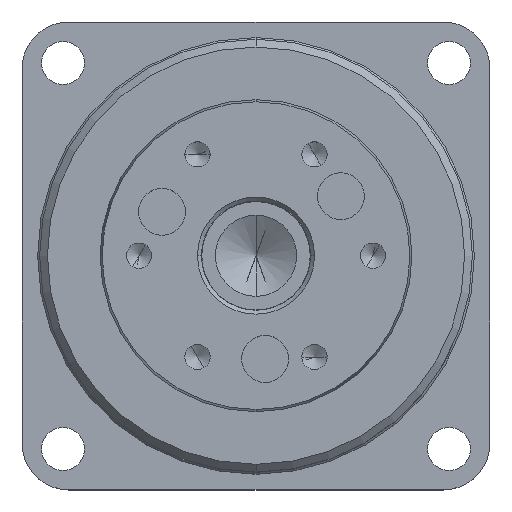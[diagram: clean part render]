
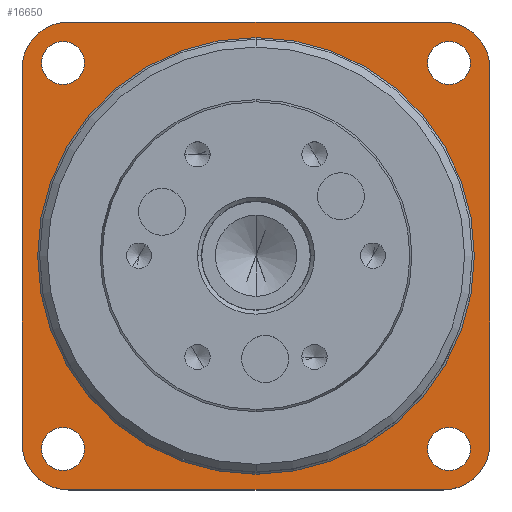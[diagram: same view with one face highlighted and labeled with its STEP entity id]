
A CAD part, top view. The second image highlights one B-rep face of the part: STEP entity #16650.
In plain terms, the highlighted planar face has unit normal (0, 0, 1).
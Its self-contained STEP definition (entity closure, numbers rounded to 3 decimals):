
#5863=CARTESIAN_POINT('',(24.,24.,0.));
#5864=DIRECTION('',(0.,0.,-1.));
#5865=DIRECTION('',(0.,1.,0.));
#5866=AXIS2_PLACEMENT_3D('',#5863,#5864,#5865);
#5868=DIRECTION('',(0.,-1.,0.));
#5869=VECTOR('',#5868,48.);
#5870=CARTESIAN_POINT('',(30.,24.,0.));
#5871=LINE('',#5870,#5869);
#5872=CARTESIAN_POINT('',(24.,-24.,0.));
#5873=DIRECTION('',(0.,0.,-1.));
#5874=DIRECTION('',(1.,0.,0.));
#5875=AXIS2_PLACEMENT_3D('',#5872,#5873,#5874);
#5877=DIRECTION('',(-1.,0.,0.));
#5878=VECTOR('',#5877,48.);
#5879=CARTESIAN_POINT('',(24.,-30.,0.));
#5880=LINE('',#5879,#5878);
#5881=CARTESIAN_POINT('',(-24.,-24.,0.));
#5882=DIRECTION('',(0.,0.,-1.));
#5883=DIRECTION('',(0.,-1.,0.));
#5884=AXIS2_PLACEMENT_3D('',#5881,#5882,#5883);
#5886=DIRECTION('',(0.,1.,0.));
#5887=VECTOR('',#5886,48.);
#5888=CARTESIAN_POINT('',(-30.,-24.,0.));
#5889=LINE('',#5888,#5887);
#5890=CARTESIAN_POINT('',(-24.,24.,0.));
#5891=DIRECTION('',(0.,0.,-1.));
#5892=DIRECTION('',(-1.,0.,0.));
#5893=AXIS2_PLACEMENT_3D('',#5890,#5891,#5892);
#5895=DIRECTION('',(1.,0.,0.));
#5896=VECTOR('',#5895,48.);
#5897=CARTESIAN_POINT('',(-24.,30.,0.));
#5898=LINE('',#5897,#5896);
#5899=CARTESIAN_POINT('',(0.,0.,0.));
#5900=DIRECTION('',(0.,0.,1.));
#5901=DIRECTION('',(0.,-1.,0.));
#5902=AXIS2_PLACEMENT_3D('',#5899,#5900,#5901);
#5904=CARTESIAN_POINT('',(0.,0.,0.));
#5905=DIRECTION('',(0.,0.,1.));
#5906=DIRECTION('',(0.,1.,0.));
#5907=AXIS2_PLACEMENT_3D('',#5904,#5905,#5906);
#5909=CARTESIAN_POINT('',(-24.749,24.749,0.));
#5910=DIRECTION('',(0.,0.,1.));
#5911=DIRECTION('',(1.,0.,0.));
#5912=AXIS2_PLACEMENT_3D('',#5909,#5910,#5911);
#5914=CARTESIAN_POINT('',(-24.749,24.749,0.));
#5915=DIRECTION('',(0.,0.,1.));
#5916=DIRECTION('',(-1.,0.,0.));
#5917=AXIS2_PLACEMENT_3D('',#5914,#5915,#5916);
#5919=CARTESIAN_POINT('',(24.749,24.749,0.));
#5920=DIRECTION('',(0.,0.,1.));
#5921=DIRECTION('',(0.,-1.,0.));
#5922=AXIS2_PLACEMENT_3D('',#5919,#5920,#5921);
#5924=CARTESIAN_POINT('',(24.749,24.749,0.));
#5925=DIRECTION('',(0.,0.,1.));
#5926=DIRECTION('',(0.,1.,0.));
#5927=AXIS2_PLACEMENT_3D('',#5924,#5925,#5926);
#5929=CARTESIAN_POINT('',(24.749,-24.749,0.));
#5930=DIRECTION('',(0.,0.,1.));
#5931=DIRECTION('',(-1.,0.,0.));
#5932=AXIS2_PLACEMENT_3D('',#5929,#5930,#5931);
#5934=CARTESIAN_POINT('',(24.749,-24.749,0.));
#5935=DIRECTION('',(0.,0.,1.));
#5936=DIRECTION('',(1.,0.,0.));
#5937=AXIS2_PLACEMENT_3D('',#5934,#5935,#5936);
#5939=CARTESIAN_POINT('',(-24.749,-24.749,0.));
#5940=DIRECTION('',(0.,0.,1.));
#5941=DIRECTION('',(0.,1.,0.));
#5942=AXIS2_PLACEMENT_3D('',#5939,#5940,#5941);
#5944=CARTESIAN_POINT('',(-24.749,-24.749,0.));
#5945=DIRECTION('',(0.,0.,1.));
#5946=DIRECTION('',(0.,-1.,0.));
#5947=AXIS2_PLACEMENT_3D('',#5944,#5945,#5946);
#6476=CARTESIAN_POINT('',(30.,-24.,0.));
#6478=VERTEX_POINT('',#6476);
#6480=CARTESIAN_POINT('',(30.,24.,0.));
#6482=VERTEX_POINT('',#6480);
#6484=CARTESIAN_POINT('',(24.,30.,0.));
#6486=VERTEX_POINT('',#6484);
#6488=CARTESIAN_POINT('',(-24.,30.,0.));
#6490=VERTEX_POINT('',#6488);
#6492=CARTESIAN_POINT('',(-30.,24.,0.));
#6494=VERTEX_POINT('',#6492);
#6496=CARTESIAN_POINT('',(-30.,-24.,0.));
#6498=VERTEX_POINT('',#6496);
#6499=CARTESIAN_POINT('',(24.,-30.,0.));
#6501=VERTEX_POINT('',#6499);
#6504=CARTESIAN_POINT('',(-24.,-30.,0.));
#6506=VERTEX_POINT('',#6504);
#6651=CARTESIAN_POINT('',(-27.499,24.749,0.));
#6652=VERTEX_POINT('',#6651);
#6653=CARTESIAN_POINT('',(-21.999,24.749,0.));
#6654=VERTEX_POINT('',#6653);
#6655=CARTESIAN_POINT('',(0.,-28.,0.));
#6656=CARTESIAN_POINT('',(0.,28.,0.));
#6657=VERTEX_POINT('',#6655);
#6658=VERTEX_POINT('',#6656);
#6659=CARTESIAN_POINT('',(24.749,21.999,0.));
#6660=CARTESIAN_POINT('',(24.749,27.499,0.));
#6661=VERTEX_POINT('',#6659);
#6662=VERTEX_POINT('',#6660);
#6663=CARTESIAN_POINT('',(21.999,-24.749,0.));
#6664=CARTESIAN_POINT('',(27.499,-24.749,0.));
#6665=VERTEX_POINT('',#6663);
#6666=VERTEX_POINT('',#6664);
#6667=CARTESIAN_POINT('',(-24.749,-21.999,0.));
#6668=CARTESIAN_POINT('',(-24.749,-27.499,0.));
#6669=VERTEX_POINT('',#6667);
#6670=VERTEX_POINT('',#6668);
#16607=CARTESIAN_POINT('',(0.,0.,0.));
#16608=DIRECTION('',(0.,0.,1.));
#16609=DIRECTION('',(0.,-1.,0.));
#16610=AXIS2_PLACEMENT_3D('',#16607,#16608,#16609);
#16611=PLANE('',#16610);
#16612=ORIENTED_EDGE('',*,*,#8343,.T.);
#16613=ORIENTED_EDGE('',*,*,#8328,.T.);
#16614=ORIENTED_EDGE('',*,*,#8313,.T.);
#16615=ORIENTED_EDGE('',*,*,#8417,.T.);
#16616=ORIENTED_EDGE('',*,*,#8403,.T.);
#16617=ORIENTED_EDGE('',*,*,#8388,.T.);
#16618=ORIENTED_EDGE('',*,*,#8373,.T.);
#16619=ORIENTED_EDGE('',*,*,#8358,.T.);
#16620=EDGE_LOOP('',(#16612,#16613,#16614,#16615,#16616,#16617,#16618,#16619));
#16621=FACE_OUTER_BOUND('',#16620,.F.);
#16623=ORIENTED_EDGE('',*,*,#16622,.T.);
#16625=ORIENTED_EDGE('',*,*,#16624,.T.);
#16626=EDGE_LOOP('',(#16623,#16625));
#16627=FACE_BOUND('',#16626,.F.);
#16628=ORIENTED_EDGE('',*,*,#16587,.T.);
#16629=ORIENTED_EDGE('',*,*,#16601,.T.);
#16630=EDGE_LOOP('',(#16628,#16629));
#16631=FACE_BOUND('',#16630,.F.);
#16633=ORIENTED_EDGE('',*,*,#16632,.T.);
#16635=ORIENTED_EDGE('',*,*,#16634,.T.);
#16636=EDGE_LOOP('',(#16633,#16635));
#16637=FACE_BOUND('',#16636,.F.);
#16639=ORIENTED_EDGE('',*,*,#16638,.T.);
#16641=ORIENTED_EDGE('',*,*,#16640,.T.);
#16642=EDGE_LOOP('',(#16639,#16641));
#16643=FACE_BOUND('',#16642,.F.);
#16645=ORIENTED_EDGE('',*,*,#16644,.T.);
#16647=ORIENTED_EDGE('',*,*,#16646,.T.);
#16648=EDGE_LOOP('',(#16645,#16647));
#16649=FACE_BOUND('',#16648,.F.);
#16650=ADVANCED_FACE('',(#16621,#16627,#16631,#16637,#16643,#16649),#16611,.T.);
#5867=CIRCLE('',#5866,6.);
#5876=CIRCLE('',#5875,6.);
#5885=CIRCLE('',#5884,6.);
#5894=CIRCLE('',#5893,6.);
#5903=CIRCLE('',#5902,28.);
#5908=CIRCLE('',#5907,28.);
#5913=CIRCLE('',#5912,2.75);
#5918=CIRCLE('',#5917,2.75);
#5923=CIRCLE('',#5922,2.75);
#5928=CIRCLE('',#5927,2.75);
#5933=CIRCLE('',#5932,2.75);
#5938=CIRCLE('',#5937,2.75);
#5943=CIRCLE('',#5942,2.75);
#5948=CIRCLE('',#5947,2.75);
#8313=EDGE_CURVE('',#6478,#6501,#5876,.T.);
#8328=EDGE_CURVE('',#6482,#6478,#5871,.T.);
#8343=EDGE_CURVE('',#6486,#6482,#5867,.T.);
#8358=EDGE_CURVE('',#6490,#6486,#5898,.T.);
#8373=EDGE_CURVE('',#6494,#6490,#5894,.T.);
#8388=EDGE_CURVE('',#6498,#6494,#5889,.T.);
#8403=EDGE_CURVE('',#6506,#6498,#5885,.T.);
#8417=EDGE_CURVE('',#6501,#6506,#5880,.T.);
#16587=EDGE_CURVE('',#6654,#6652,#5913,.T.);
#16601=EDGE_CURVE('',#6652,#6654,#5918,.T.);
#16622=EDGE_CURVE('',#6657,#6658,#5903,.T.);
#16624=EDGE_CURVE('',#6658,#6657,#5908,.T.);
#16632=EDGE_CURVE('',#6661,#6662,#5923,.T.);
#16634=EDGE_CURVE('',#6662,#6661,#5928,.T.);
#16638=EDGE_CURVE('',#6665,#6666,#5933,.T.);
#16640=EDGE_CURVE('',#6666,#6665,#5938,.T.);
#16644=EDGE_CURVE('',#6669,#6670,#5943,.T.);
#16646=EDGE_CURVE('',#6670,#6669,#5948,.T.);
